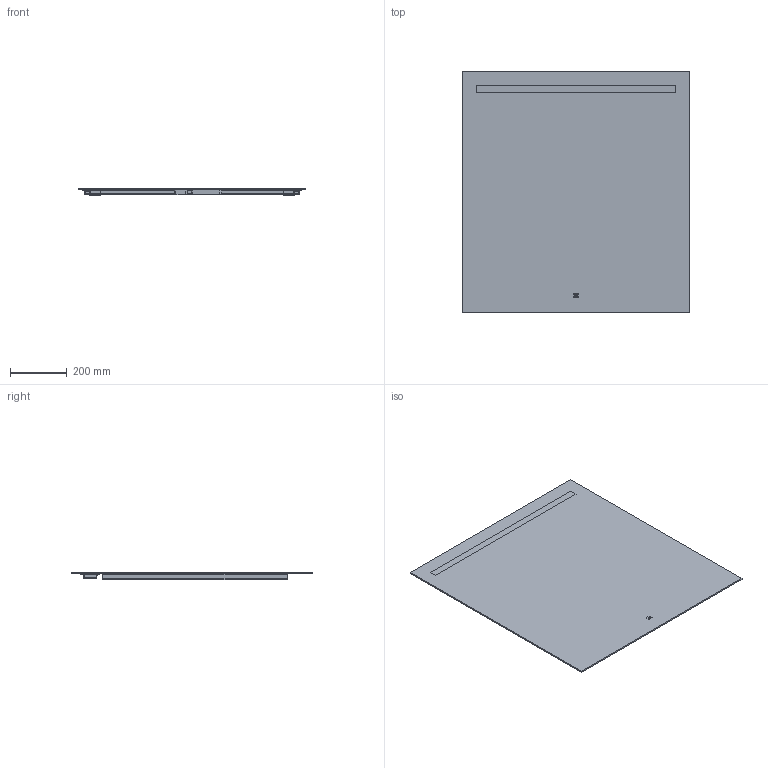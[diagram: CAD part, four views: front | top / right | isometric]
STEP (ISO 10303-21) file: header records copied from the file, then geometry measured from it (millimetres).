
FILE_DESCRIPTION (( 'STEP AP203' ), '1' );
FILE_NAME ('2000657 Kristalspiegel Mono 800x850 horizontal.STEP', '2021-01-22T09:13:37', ( '' ), ( '' ), 'SwSTEP 2.0', 'SolidWorks 2018', '' );
FILE_SCHEMA (( 'CONFIG_CONTROL_DESIGN' ));
Length unit declared in the file: millimetre
Products named in the file (7): Neues_Kunststoffprofil; 2000657 Kristalspiegel Mono 800x850 horizontal; Rechteckprofil; IP44-Box; Trafo_15W; Spiegel_horizontale_Beleuchtung; Endkappe_mit_Kabelauslass
Assembly tree (8 placements, depth 2):
  2000657 Kristalspiegel Mono 800x850 horizontal
    Spiegel_horizontale_Beleuchtung
    Neues_Kunststoffprofil
    Endkappe_mit_Kabelauslass  x2
    Rechteckprofil  x2
    IP44-Box
    Trafo_15W
Bounding box: 800 x 850 x 25 mm (x, y, z)
Volume: 4055389.4 mm3; surface area: 1872772.1 mm2
Topology: 8 solids, 8 shells, 312 faces, 824 edges, 520 vertices
Faces by surface type: plane 146, cylinder 120, torus 24, bspline 20, sphere 2
Entity records: 7101 total; most frequent: CARTESIAN_POINT 1438, DIRECTION 1031, ORIENTED_EDGE 1028, EDGE_CURVE 514, AXIS2_PLACEMENT_3D 355, VERTEX_POINT 342, VECTOR 321, LINE 321
